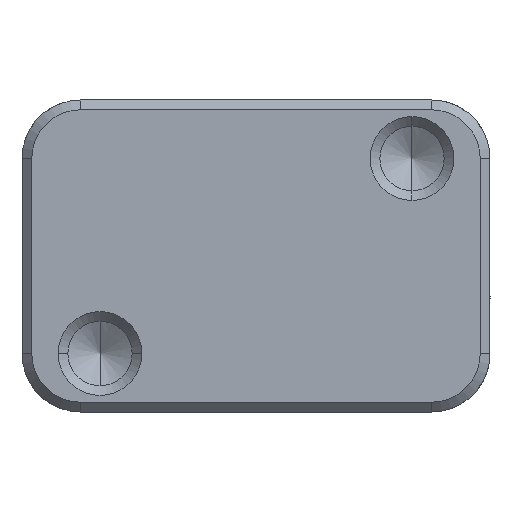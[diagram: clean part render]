
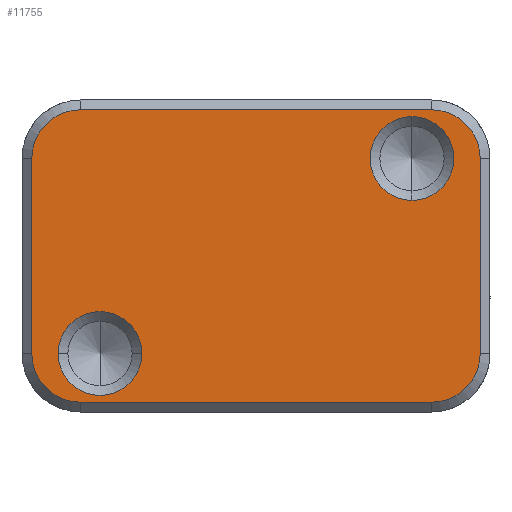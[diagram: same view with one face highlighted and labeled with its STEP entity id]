
A CAD part, front view. The second image highlights one B-rep face of the part: STEP entity #11755.
In plain terms, the highlighted planar face has unit normal (0, -1, 0).
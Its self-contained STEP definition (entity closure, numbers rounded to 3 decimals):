
#71 = EDGE_CURVE ( 'NONE', #7296, #917, #9760, .T. ) ;
#453 = CIRCLE ( 'NONE', #4965, 2.5 ) ;
#506 = CIRCLE ( 'NONE', #3165, 2.5 ) ;
#529 = CARTESIAN_POINT ( 'NONE',  ( 11.5, 0., -8. ) ) ;
#690 = CARTESIAN_POINT ( 'NONE',  ( 8., 0., 5. ) ) ;
#910 = CARTESIAN_POINT ( 'NONE',  ( -9., 0., -7.5 ) ) ;
#917 = VERTEX_POINT ( 'NONE', #910 ) ;
#999 = VECTOR ( 'NONE', #1614, 1000. ) ;
#1301 = DIRECTION ( 'NONE',  ( 0., 0., -1. ) ) ;
#1335 = EDGE_LOOP ( 'NONE', ( #2853, #2665, #6070, #10987, #5728, #6396, #5990, #9132 ) ) ;
#1362 = PLANE ( 'NONE',  #2664 ) ;
#1614 = DIRECTION ( 'NONE',  ( 0., 0., 1. ) ) ;
#1677 = EDGE_CURVE ( 'NONE', #8318, #5421, #5345, .T. ) ;
#1697 = DIRECTION ( 'NONE',  ( -1., 0., 0. ) ) ;
#1717 = EDGE_CURVE ( 'NONE', #2409, #9030, #10533, .T. ) ;
#1937 = CARTESIAN_POINT ( 'NONE',  ( 8., 0., 7.15 ) ) ;
#1980 = CARTESIAN_POINT ( 'NONE',  ( 9., 0., 7.5 ) ) ;
#2032 = VECTOR ( 'NONE', #1697, 1000. ) ;
#2062 = EDGE_CURVE ( 'NONE', #9030, #2409, #7530, .T. ) ;
#2291 = DIRECTION ( 'NONE',  ( 0., 1., 0. ) ) ;
#2295 = EDGE_CURVE ( 'NONE', #12115, #7296, #453, .T. ) ;
#2409 = VERTEX_POINT ( 'NONE', #10192 ) ;
#2553 = DIRECTION ( 'NONE',  ( 0., 1., 0. ) ) ;
#2664 = AXIS2_PLACEMENT_3D ( 'NONE', #5289, #12352, #1301 ) ;
#2665 = ORIENTED_EDGE ( 'NONE', *, *, #9337, .T. ) ;
#2679 = CARTESIAN_POINT ( 'NONE',  ( -8., 0., -5. ) ) ;
#2853 = ORIENTED_EDGE ( 'NONE', *, *, #2295, .F. ) ;
#3045 = ORIENTED_EDGE ( 'NONE', *, *, #1717, .T. ) ;
#3165 = AXIS2_PLACEMENT_3D ( 'NONE', #5603, #9561, #6388 ) ;
#3702 = DIRECTION ( 'NONE',  ( 1., 0., 0. ) ) ;
#3743 = LINE ( 'NONE', #12609, #2032 ) ;
#3786 = DIRECTION ( 'NONE',  ( 0., 0., -1. ) ) ;
#3790 = ORIENTED_EDGE ( 'NONE', *, *, #2062, .T. ) ;
#3882 = ORIENTED_EDGE ( 'NONE', *, *, #1677, .T. ) ;
#3917 = DIRECTION ( 'NONE',  ( 0., 1., 0. ) ) ;
#3926 = CARTESIAN_POINT ( 'NONE',  ( -5.85, 0., -5. ) ) ;
#4058 = CARTESIAN_POINT ( 'NONE',  ( -8., 0., -5. ) ) ;
#4100 = EDGE_CURVE ( 'NONE', #5421, #8318, #4618, .T. ) ;
#4255 = EDGE_CURVE ( 'NONE', #9967, #6603, #4450, .T. ) ;
#4308 = EDGE_CURVE ( 'NONE', #10237, #7297, #506, .T. ) ;
#4450 = LINE ( 'NONE', #9503, #5437 ) ;
#4618 = CIRCLE ( 'NONE', #9783, 2.15 ) ;
#4641 = AXIS2_PLACEMENT_3D ( 'NONE', #12653, #3917, #3786 ) ;
#4729 = AXIS2_PLACEMENT_3D ( 'NONE', #2679, #2553, #3702 ) ;
#4815 = EDGE_CURVE ( 'NONE', #917, #6603, #6022, .T. ) ;
#4965 = AXIS2_PLACEMENT_3D ( 'NONE', #12540, #6762, #8585 ) ;
#5230 = EDGE_LOOP ( 'NONE', ( #3882, #8220 ) ) ;
#5239 = CARTESIAN_POINT ( 'NONE',  ( 11.5, 0., 5. ) ) ;
#5289 = CARTESIAN_POINT ( 'NONE',  ( -12., 0., -8. ) ) ;
#5345 = CIRCLE ( 'NONE', #4729, 2.15 ) ;
#5421 = VERTEX_POINT ( 'NONE', #11288 ) ;
#5437 = VECTOR ( 'NONE', #8392, 1000. ) ;
#5516 = DIRECTION ( 'NONE',  ( 0., -1., 0. ) ) ;
#5603 = CARTESIAN_POINT ( 'NONE',  ( 9., 0., 5. ) ) ;
#5728 = ORIENTED_EDGE ( 'NONE', *, *, #12013, .T. ) ;
#5912 = CARTESIAN_POINT ( 'NONE',  ( -9., 0., 7.5 ) ) ;
#5990 = ORIENTED_EDGE ( 'NONE', *, *, #4815, .F. ) ;
#6022 = CIRCLE ( 'NONE', #7667, 2.5 ) ;
#6063 = DIRECTION ( 'NONE',  ( 1., 0., 0. ) ) ;
#6070 = ORIENTED_EDGE ( 'NONE', *, *, #4308, .T. ) ;
#6388 = DIRECTION ( 'NONE',  ( 0., 0., 1. ) ) ;
#6396 = ORIENTED_EDGE ( 'NONE', *, *, #4255, .T. ) ;
#6603 = VERTEX_POINT ( 'NONE', #11474 ) ;
#6762 = DIRECTION ( 'NONE',  ( 0., 1., 0. ) ) ;
#7001 = AXIS2_PLACEMENT_3D ( 'NONE', #690, #7462, #12511 ) ;
#7283 = VERTEX_POINT ( 'NONE', #5912 ) ;
#7296 = VERTEX_POINT ( 'NONE', #11038 ) ;
#7297 = VERTEX_POINT ( 'NONE', #1980 ) ;
#7462 = DIRECTION ( 'NONE',  ( 0., 1., 0. ) ) ;
#7530 = CIRCLE ( 'NONE', #4641, 2.15 ) ;
#7624 = CARTESIAN_POINT ( 'NONE',  ( -12., 0., -7.5 ) ) ;
#7667 = AXIS2_PLACEMENT_3D ( 'NONE', #9013, #2291, #12000 ) ;
#7786 = VECTOR ( 'NONE', #7812, 1000. ) ;
#7812 = DIRECTION ( 'NONE',  ( -1., 0., 0. ) ) ;
#8012 = DIRECTION ( 'NONE',  ( 0., 1., 0. ) ) ;
#8220 = ORIENTED_EDGE ( 'NONE', *, *, #4100, .T. ) ;
#8318 = VERTEX_POINT ( 'NONE', #3926 ) ;
#8392 = DIRECTION ( 'NONE',  ( 0., 0., -1. ) ) ;
#8431 = CARTESIAN_POINT ( 'NONE',  ( -9., 0., 5. ) ) ;
#8557 = DIRECTION ( 'NONE',  ( 0., 0., 1. ) ) ;
#8585 = DIRECTION ( 'NONE',  ( 0., 0., 1. ) ) ;
#8732 = AXIS2_PLACEMENT_3D ( 'NONE', #8431, #5516, #8557 ) ;
#9013 = CARTESIAN_POINT ( 'NONE',  ( -9., 0., -5. ) ) ;
#9030 = VERTEX_POINT ( 'NONE', #1937 ) ;
#9132 = ORIENTED_EDGE ( 'NONE', *, *, #71, .F. ) ;
#9309 = FACE_BOUND ( 'NONE', #10815, .T. ) ;
#9337 = EDGE_CURVE ( 'NONE', #12115, #10237, #12283, .T. ) ;
#9503 = CARTESIAN_POINT ( 'NONE',  ( -11.5, 0., -8. ) ) ;
#9561 = DIRECTION ( 'NONE',  ( 0., -1., 0. ) ) ;
#9760 = LINE ( 'NONE', #7624, #7786 ) ;
#9783 = AXIS2_PLACEMENT_3D ( 'NONE', #4058, #8012, #6063 ) ;
#9967 = VERTEX_POINT ( 'NONE', #11718 ) ;
#10192 = CARTESIAN_POINT ( 'NONE',  ( 8., 0., 2.85 ) ) ;
#10218 = FACE_OUTER_BOUND ( 'NONE', #1335, .T. ) ;
#10237 = VERTEX_POINT ( 'NONE', #5239 ) ;
#10289 = EDGE_CURVE ( 'NONE', #7297, #7283, #3743, .T. ) ;
#10533 = CIRCLE ( 'NONE', #7001, 2.15 ) ;
#10815 = EDGE_LOOP ( 'NONE', ( #3045, #3790 ) ) ;
#10987 = ORIENTED_EDGE ( 'NONE', *, *, #10289, .T. ) ;
#11038 = CARTESIAN_POINT ( 'NONE',  ( 9., 0., -7.5 ) ) ;
#11249 = FACE_BOUND ( 'NONE', #5230, .T. ) ;
#11288 = CARTESIAN_POINT ( 'NONE',  ( -10.15, 0., -5. ) ) ;
#11474 = CARTESIAN_POINT ( 'NONE',  ( -11.5, 0., -5. ) ) ;
#11718 = CARTESIAN_POINT ( 'NONE',  ( -11.5, 0., 5. ) ) ;
#11755 = ADVANCED_FACE ( 'NONE', ( #10218, #11249, #9309 ), #1362, .T. ) ;
#11847 = CIRCLE ( 'NONE', #8732, 2.5 ) ;
#12000 = DIRECTION ( 'NONE',  ( 0., 0., 1. ) ) ;
#12013 = EDGE_CURVE ( 'NONE', #7283, #9967, #11847, .T. ) ;
#12115 = VERTEX_POINT ( 'NONE', #12753 ) ;
#12283 = LINE ( 'NONE', #529, #999 ) ;
#12352 = DIRECTION ( 'NONE',  ( 0., -1., 0. ) ) ;
#12511 = DIRECTION ( 'NONE',  ( 0., 0., -1. ) ) ;
#12540 = CARTESIAN_POINT ( 'NONE',  ( 9., 0., -5. ) ) ;
#12609 = CARTESIAN_POINT ( 'NONE',  ( -12., 0., 7.5 ) ) ;
#12653 = CARTESIAN_POINT ( 'NONE',  ( 8., 0., 5. ) ) ;
#12753 = CARTESIAN_POINT ( 'NONE',  ( 11.5, 0., -5. ) ) ;
